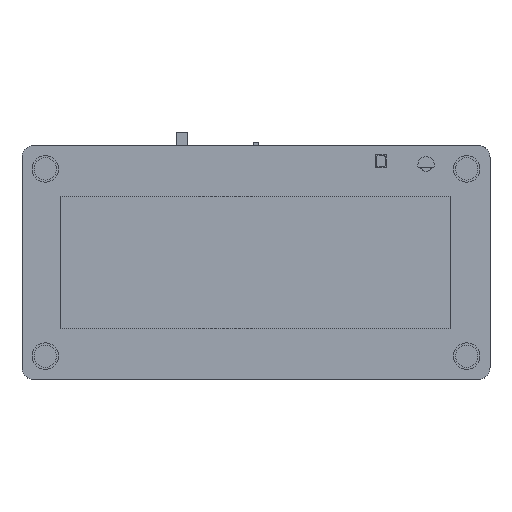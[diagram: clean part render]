
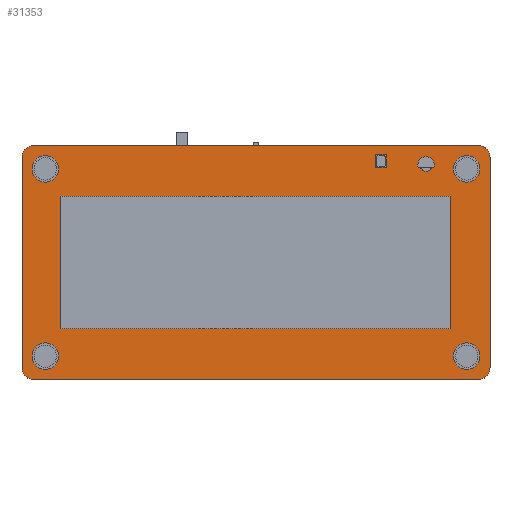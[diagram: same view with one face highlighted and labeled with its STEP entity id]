
A CAD part, top view. The second image highlights one B-rep face of the part: STEP entity #31353.
In plain terms, the highlighted planar face has unit normal (0, 0, 1).
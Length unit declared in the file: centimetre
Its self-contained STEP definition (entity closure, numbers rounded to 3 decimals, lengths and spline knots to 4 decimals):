
#284=FACE_BOUND('',#3953,.T.);
#285=FACE_BOUND('',#3954,.T.);
#286=FACE_BOUND('',#3955,.T.);
#287=FACE_BOUND('',#3956,.T.);
#288=FACE_BOUND('',#3957,.T.);
#289=FACE_BOUND('',#3958,.T.);
#290=FACE_BOUND('',#3959,.T.);
#603=PLANE('',#33378);
#2229=FACE_OUTER_BOUND('',#3952,.T.);
#3952=EDGE_LOOP('',(#23151,#23152,#23153,#23154,#23155,#23156,#23157,#23158));
#3953=EDGE_LOOP('',(#23159));
#3954=EDGE_LOOP('',(#23160,#23161,#23162,#23163));
#3955=EDGE_LOOP('',(#23164));
#3956=EDGE_LOOP('',(#23165));
#3957=EDGE_LOOP('',(#23166));
#3958=EDGE_LOOP('',(#23167));
#3959=EDGE_LOOP('',(#23168,#23169,#23170,#23171));
#5640=LINE('',#43422,#9994);
#5643=LINE('',#43428,#9997);
#5646=LINE('',#43434,#10000);
#5649=LINE('',#43438,#10003);
#5929=LINE('',#44045,#10283);
#5942=LINE('',#44070,#10296);
#6099=LINE('',#44400,#10453);
#6101=LINE('',#44404,#10455);
#6103=LINE('',#44408,#10457);
#6105=LINE('',#44411,#10459);
#6106=LINE('',#44415,#10460);
#6110=LINE('',#44426,#10464);
#9994=VECTOR('',#35165,1.);
#9997=VECTOR('',#35170,1.);
#10000=VECTOR('',#35175,1.);
#10003=VECTOR('',#35180,1.);
#10283=VECTOR('',#35684,1.);
#10296=VECTOR('',#35705,1.);
#10453=VECTOR('',#36066,1.);
#10455=VECTOR('',#36070,1.);
#10457=VECTOR('',#36074,1.);
#10459=VECTOR('',#36078,1.);
#10460=VECTOR('',#36081,1.);
#10464=VECTOR('',#36095,1.);
#14264=CIRCLE('',#33130,0.16);
#14274=CIRCLE('',#33155,0.34);
#14291=CIRCLE('',#33240,0.34);
#14292=CIRCLE('',#33243,0.34);
#14293=CIRCLE('',#33246,0.34);
#14295=CIRCLE('',#33271,0.3);
#14296=CIRCLE('',#33372,0.3);
#14297=CIRCLE('',#33374,0.3);
#14298=CIRCLE('',#33377,0.3);
#14441=VERTEX_POINT('',#43232);
#14529=VERTEX_POINT('',#43419);
#14530=VERTEX_POINT('',#43421);
#14532=VERTEX_POINT('',#43427);
#14534=VERTEX_POINT('',#43433);
#14542=VERTEX_POINT('',#43464);
#14725=VERTEX_POINT('',#43962);
#14726=VERTEX_POINT('',#43968);
#14727=VERTEX_POINT('',#43974);
#14748=VERTEX_POINT('',#44042);
#14749=VERTEX_POINT('',#44044);
#14756=VERTEX_POINT('',#44067);
#14757=VERTEX_POINT('',#44069);
#14827=VERTEX_POINT('',#44397);
#14828=VERTEX_POINT('',#44399);
#14829=VERTEX_POINT('',#44403);
#14830=VERTEX_POINT('',#44407);
#14831=VERTEX_POINT('',#44413);
#14832=VERTEX_POINT('',#44414);
#14833=VERTEX_POINT('',#44421);
#14834=VERTEX_POINT('',#44425);
#17459=EDGE_CURVE('',#14441,#14441,#14264,.T.);
#17553=EDGE_CURVE('',#14530,#14529,#5640,.T.);
#17556=EDGE_CURVE('',#14532,#14530,#5643,.T.);
#17559=EDGE_CURVE('',#14534,#14532,#5646,.T.);
#17562=EDGE_CURVE('',#14529,#14534,#5649,.T.);
#17575=EDGE_CURVE('',#14542,#14542,#14274,.T.);
#17822=EDGE_CURVE('',#14725,#14725,#14291,.T.);
#17825=EDGE_CURVE('',#14726,#14726,#14292,.T.);
#17828=EDGE_CURVE('',#14727,#14727,#14293,.T.);
#17862=EDGE_CURVE('',#14749,#14748,#5929,.T.);
#17875=EDGE_CURVE('',#14757,#14756,#5942,.T.);
#17887=EDGE_CURVE('',#14748,#14757,#14295,.T.);
#18034=EDGE_CURVE('',#14828,#14827,#6099,.T.);
#18036=EDGE_CURVE('',#14829,#14828,#6101,.T.);
#18038=EDGE_CURVE('',#14830,#14829,#6103,.T.);
#18040=EDGE_CURVE('',#14827,#14830,#6105,.T.);
#18041=EDGE_CURVE('',#14831,#14832,#6106,.T.);
#18044=EDGE_CURVE('',#14832,#14749,#14296,.T.);
#18045=EDGE_CURVE('',#14756,#14833,#14297,.T.);
#18047=EDGE_CURVE('',#14833,#14834,#6110,.T.);
#18049=EDGE_CURVE('',#14834,#14831,#14298,.T.);
#23151=ORIENTED_EDGE('',*,*,#18049,.T.);
#23152=ORIENTED_EDGE('',*,*,#18041,.T.);
#23153=ORIENTED_EDGE('',*,*,#18044,.T.);
#23154=ORIENTED_EDGE('',*,*,#17862,.T.);
#23155=ORIENTED_EDGE('',*,*,#17887,.T.);
#23156=ORIENTED_EDGE('',*,*,#17875,.T.);
#23157=ORIENTED_EDGE('',*,*,#18045,.T.);
#23158=ORIENTED_EDGE('',*,*,#18047,.T.);
#23159=ORIENTED_EDGE('',*,*,#17459,.T.);
#23160=ORIENTED_EDGE('',*,*,#17559,.T.);
#23161=ORIENTED_EDGE('',*,*,#17556,.T.);
#23162=ORIENTED_EDGE('',*,*,#17553,.T.);
#23163=ORIENTED_EDGE('',*,*,#17562,.T.);
#23164=ORIENTED_EDGE('',*,*,#17575,.T.);
#23165=ORIENTED_EDGE('',*,*,#17822,.T.);
#23166=ORIENTED_EDGE('',*,*,#17825,.T.);
#23167=ORIENTED_EDGE('',*,*,#17828,.T.);
#23168=ORIENTED_EDGE('',*,*,#18038,.T.);
#23169=ORIENTED_EDGE('',*,*,#18036,.T.);
#23170=ORIENTED_EDGE('',*,*,#18034,.T.);
#23171=ORIENTED_EDGE('',*,*,#18040,.T.);
#31353=ADVANCED_FACE('',(#2229,#284,#285,#286,#287,#288,#289,#290),#603,
 .T.);
#33130=AXIS2_PLACEMENT_3D('',#43233,#35049,#35050);
#33155=AXIS2_PLACEMENT_3D('',#43465,#35205,#35206);
#33240=AXIS2_PLACEMENT_3D('',#43963,#35605,#35606);
#33243=AXIS2_PLACEMENT_3D('',#43969,#35613,#35614);
#33246=AXIS2_PLACEMENT_3D('',#43975,#35621,#35622);
#33271=AXIS2_PLACEMENT_3D('',#44092,#35728,#35729);
#33372=AXIS2_PLACEMENT_3D('',#44419,#36086,#36087);
#33374=AXIS2_PLACEMENT_3D('',#44422,#36090,#36091);
#33377=AXIS2_PLACEMENT_3D('',#44429,#36099,#36100);
#33378=AXIS2_PLACEMENT_3D('',#44430,#36101,#36102);
#35049=DIRECTION('center_axis',(0.,0.,-1.));
#35050=DIRECTION('ref_axis',(1.,0.,0.));
#35165=DIRECTION('',(1.,0.,0.));
#35170=DIRECTION('',(0.,1.,0.));
#35175=DIRECTION('',(-1.,0.,0.));
#35180=DIRECTION('',(0.,-1.,0.));
#35205=DIRECTION('center_axis',(0.,0.,-1.));
#35206=DIRECTION('ref_axis',(1.,0.,0.));
#35605=DIRECTION('center_axis',(0.,0.,-1.));
#35606=DIRECTION('ref_axis',(1.,0.,0.));
#35613=DIRECTION('center_axis',(0.,0.,-1.));
#35614=DIRECTION('ref_axis',(1.,0.,0.));
#35621=DIRECTION('center_axis',(0.,0.,-1.));
#35622=DIRECTION('ref_axis',(1.,0.,0.));
#35684=DIRECTION('',(0.,1.,0.));
#35705=DIRECTION('',(-1.,0.,0.));
#35728=DIRECTION('center_axis',(0.,0.,1.));
#35729=DIRECTION('ref_axis',(1.,0.,0.));
#36066=DIRECTION('',(1.,0.,0.));
#36070=DIRECTION('',(0.,1.,0.));
#36074=DIRECTION('',(-1.,0.,0.));
#36078=DIRECTION('',(0.,-1.,0.));
#36081=DIRECTION('',(1.,0.,0.));
#36086=DIRECTION('center_axis',(0.,0.,1.));
#36087=DIRECTION('ref_axis',(0.,-1.,0.));
#36090=DIRECTION('center_axis',(0.,0.,1.));
#36091=DIRECTION('ref_axis',(0.,1.,0.));
#36095=DIRECTION('',(0.,-1.,0.));
#36099=DIRECTION('center_axis',(0.,0.,1.));
#36100=DIRECTION('ref_axis',(-1.,0.,0.));
#36101=DIRECTION('center_axis',(0.,0.,1.));
#36102=DIRECTION('ref_axis',(1.,0.,0.));
#43232=CARTESIAN_POINT('',(10.2005,5.5006,0.));
#43233=CARTESIAN_POINT('Origin',(10.3605,5.5006,0.));
#43419=CARTESIAN_POINT('',(9.3415,5.76,0.));
#43421=CARTESIAN_POINT('',(9.0615,5.76,0.));
#43422=CARTESIAN_POINT('',(7.5308,5.76,0.));
#43427=CARTESIAN_POINT('',(9.0615,5.44,0.));
#43428=CARTESIAN_POINT('',(9.0615,4.22,0.));
#43433=CARTESIAN_POINT('',(9.3415,5.44,0.));
#43434=CARTESIAN_POINT('',(7.6708,5.44,0.));
#43438=CARTESIAN_POINT('',(9.3415,4.38,0.));
#43464=CARTESIAN_POINT('',(11.06,5.4,0.));
#43465=CARTESIAN_POINT('Origin',(11.4,5.4,0.));
#43962=CARTESIAN_POINT('',(0.26,5.4,0.));
#43963=CARTESIAN_POINT('Origin',(0.6,5.4,0.));
#43968=CARTESIAN_POINT('',(11.06,0.6,0.));
#43969=CARTESIAN_POINT('Origin',(11.4,0.6,0.));
#43974=CARTESIAN_POINT('',(0.26,0.6,0.));
#43975=CARTESIAN_POINT('Origin',(0.6,0.6,0.));
#44042=CARTESIAN_POINT('',(12.,5.7,0.));
#44044=CARTESIAN_POINT('',(12.,0.3,0.));
#44045=CARTESIAN_POINT('',(12.,0.3,0.));
#44067=CARTESIAN_POINT('',(0.3,6.,0.));
#44069=CARTESIAN_POINT('',(11.7,6.,0.));
#44070=CARTESIAN_POINT('',(11.7,6.,0.));
#44092=CARTESIAN_POINT('Origin',(11.7,5.7,0.));
#44397=CARTESIAN_POINT('',(11.,4.7,0.));
#44399=CARTESIAN_POINT('',(1.,4.7,0.));
#44400=CARTESIAN_POINT('',(3.5,4.7,0.));
#44403=CARTESIAN_POINT('',(1.,1.3,0.));
#44404=CARTESIAN_POINT('',(1.,2.15,0.));
#44407=CARTESIAN_POINT('',(11.,1.3,0.));
#44408=CARTESIAN_POINT('',(8.5,1.3,0.));
#44411=CARTESIAN_POINT('',(11.,3.85,0.));
#44413=CARTESIAN_POINT('',(0.3,0.,0.));
#44414=CARTESIAN_POINT('',(11.7,0.,0.));
#44415=CARTESIAN_POINT('',(0.3,0.,0.));
#44419=CARTESIAN_POINT('Origin',(11.7,0.3,0.));
#44421=CARTESIAN_POINT('',(0.,5.7,0.));
#44422=CARTESIAN_POINT('Origin',(0.3,5.7,0.));
#44425=CARTESIAN_POINT('',(0.,0.3,0.));
#44426=CARTESIAN_POINT('',(0.,5.7,0.));
#44429=CARTESIAN_POINT('Origin',(0.3,0.3,0.));
#44430=CARTESIAN_POINT('Origin',(6.,3.,0.));
